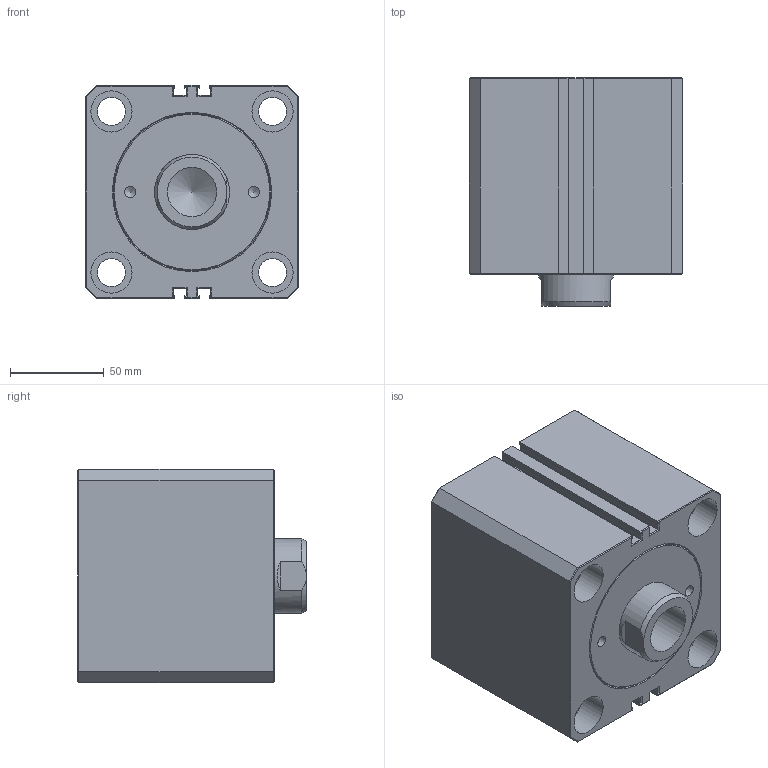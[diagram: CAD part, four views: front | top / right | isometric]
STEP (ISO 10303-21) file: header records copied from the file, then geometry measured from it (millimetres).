
FILE_DESCRIPTION(/* description */ ('Unknown'),/* implementation_level */ '2;1');
FILE_NAME(/* name */ 'HTM140-SD80X10N',/* time_stamp */ '2022-09-01T01:35:12+08:00',/* author */ ('Unknown'),/* organization */ ('Unknown'),/* preprocessor_version */ 'ST-DEVELOPER v16.7',/* originating_system */ 'DEX',/* authorisation */ $);
FILE_SCHEMA (('AUTOMOTIVE_DESIGN {1 0 10303 214 3 1 1}'));
Length unit declared in the file: millimetre
Products named in the file (1): HTM140-SD80X10N
Bounding box: 114 x 122 x 114 mm (x, y, z)
Volume: 1239249.1 mm3; surface area: 104880.4 mm2
Topology: 1 solids, 1 shells, 187 faces, 430 edges, 259 vertices
Faces by surface type: plane 140, cylinder 19, cone 16, bspline 12
Full cylindrical faces by diameter (mm): 6 x1, 6.1 x2, 15 x4, 15.806 x2, 22 x8, 26.211 x1, 40 x1
Entity records: 6353 total; most frequent: CARTESIAN_POINT 1061, ORIENTED_EDGE 778, DIRECTION 768, EDGE_CURVE 389, LINE 294, VECTOR 294, VERTEX_POINT 248, FACE_BOUND 239
